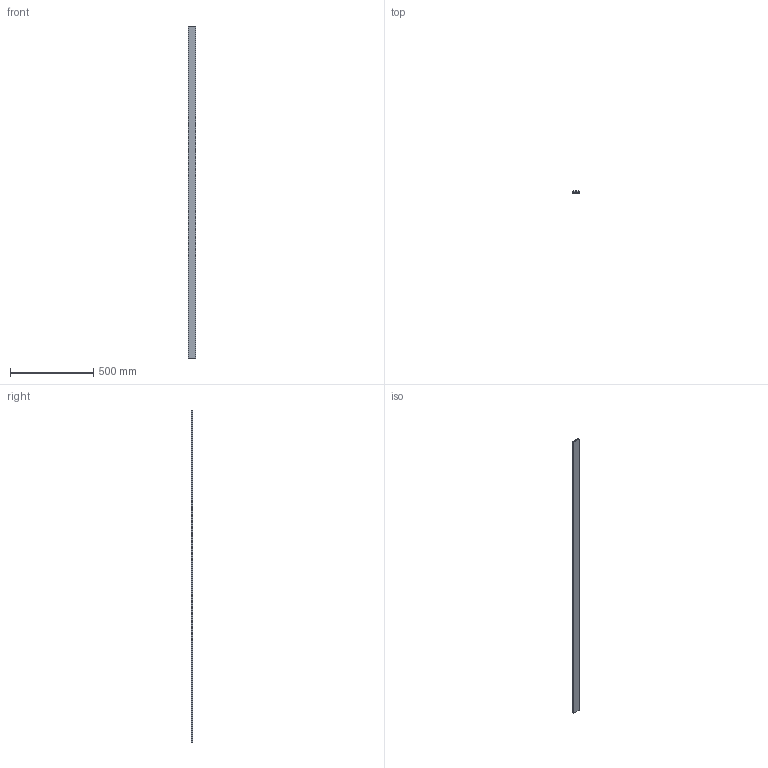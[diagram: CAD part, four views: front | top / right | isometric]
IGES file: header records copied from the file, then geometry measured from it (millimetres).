
Start section: SolidWorks IGES file using analytic representation for surfaces
Global section: file name: C:\Documents and Settings\ARGE\Desktop\yeni katalog tolgay düzenli\E kataloðu\2T MODEL HAFÝF TÝP ZÝNCÝR KIZAKLARI\export\207 TH4 510.IGS; native system: SolidWorks 2006 by SolidWorks Corporation; preprocessor: SolidWorks 2006 by SolidWorks Corporation; author: ARGE2; date: 060912.115447; units: millimetre
Bounding box: 45 x 10 x 2000 mm (x, y, z)
Surface area: 230392.5 mm2 (no closed solid volume)
Topology: 0 solids, 0 shells, 14 faces, 72 edges, 72 vertices
Faces by surface type: bspline 14
